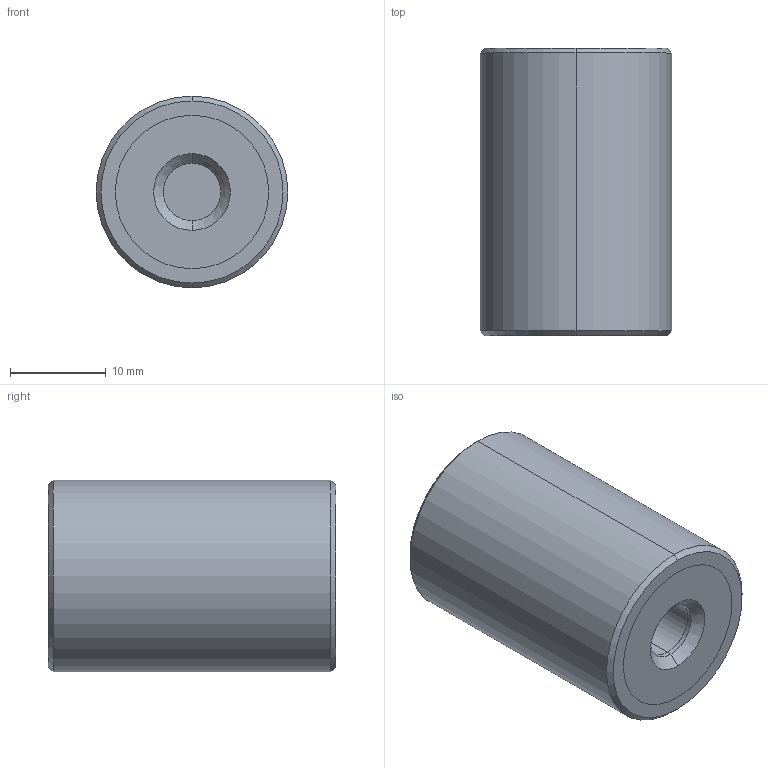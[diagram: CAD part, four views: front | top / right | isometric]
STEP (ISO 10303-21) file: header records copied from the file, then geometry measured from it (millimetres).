
FILE_DESCRIPTION (( 'STEP AP203' ), '1' );
FILE_NAME ('61080.W0203.step', '2018-07-16T20:42:44', ( '' ), ( '' ), 'SwSTEP 2.0', 'SolidWorks 2017', '' );
FILE_SCHEMA (( 'CONFIG_CONTROL_DESIGN' ));
Length unit declared in the file: millimetre
Products named in the file (4): Part3_61080.W0203; 61080.W0203; Part2_61080.W0203; Part1_61080.W0203
Assembly tree (3 placements, depth 2):
  61080.W0203
    Part1_61080.W0203
    Part2_61080.W0203
    Part3_61080.W0203
Bounding box: 20 x 30 x 20 mm (x, y, z)
Volume: 9049.1 mm3; surface area: 3675.3 mm2
Topology: 3 solids, 3 shells, 36 faces, 70 edges, 44 vertices
Faces by surface type: cylinder 18, plane 10, cone 8
Entity records: 1356 total; most frequent: DIRECTION 198, CARTESIAN_POINT 156, ORIENTED_EDGE 140, AXIS2_PLACEMENT_3D 86, EDGE_CURVE 70, EDGE_LOOP 44, CIRCLE 44, VERTEX_POINT 44
